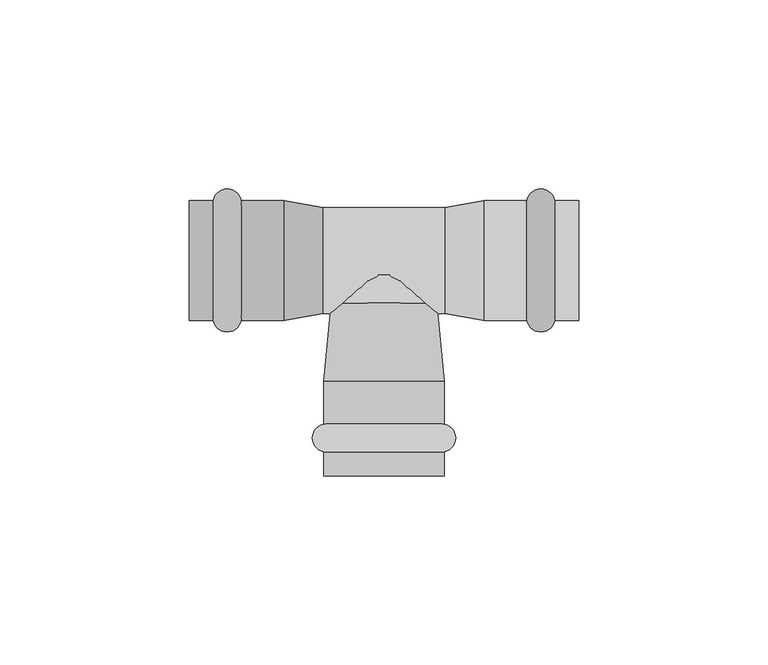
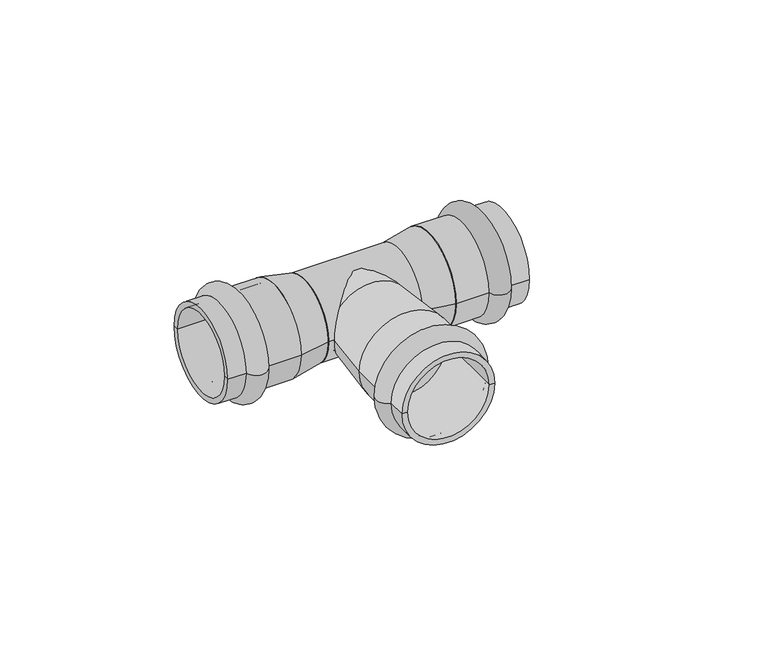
"""IFC4 building model written with IfcOpenShell, lengths in millimetres: pipe fitting geometry, VALTEC_VTi.931.I_Тройник_Ннержавеющая сталь : VTi.931.I."""

import ifcopenshell
import ifcopenshell.guid

model = None  # the IFC model being written
_history = None  # IfcOwnerHistory: only IFC2X3 demands one
_inside = {}  # id of a spatial element -> (the spatial element, [elements in it])
_under = {}  # id of a project, library or spatial element -> (it, [spatial elements below it])
_declared = {}  # id of a project -> (the project, [libraries it declares])
_typed = {}  # id of a type object -> (the type object, [elements of that type])
_made_of = {}  # id of a material, layer set ... -> (it, [elements and type objects made of it])


def new_model(schema):
    """Start an empty IFC model of exactly this schema.

    Asked for "IFC4X3", IfcOpenShell would pick the latest addendum, in which some entities
    have other attributes; the version numbers below select the first issue.
    IFC2X3 requires an IfcOwnerHistory on every rooted entity: one is made here for all.
    """
    global model, _history
    if schema == "IFC4X3":
        model = ifcopenshell.file(schema_version=(4, 3, 0, 0))
    else:
        model = ifcopenshell.file(schema=schema)
    _inside.clear()
    _under.clear()
    _declared.clear()
    _typed.clear()
    _made_of.clear()
    _history = None
    if model.schema == "IFC2X3":
        org = make("IfcOrganization", Name="unknown")
        user = make(
            "IfcPersonAndOrganization",
            ThePerson=make("IfcPerson", FamilyName="unknown"),
            TheOrganization=org,
        )
        app = make(
            "IfcApplication",
            ApplicationDeveloper=org,
            Version="unknown",
            ApplicationFullName="unknown",
            ApplicationIdentifier="unknown",
        )
        _history = make(
            "IfcOwnerHistory",
            OwningUser=user,
            OwningApplication=app,
            ChangeAction="ADDED",
            CreationDate=0,
        )
    return model


def make(cls, **values):
    """One entity of the class cls with the attributes given. An attribute that is None is left unset."""
    return model.create_entity(
        cls, **{name: value for name, value in values.items() if value is not None}
    )


def rooted(cls, **values):
    """An entity with a GlobalId (a new one), such as an element, a storey or a relation."""
    return make(cls, GlobalId=ifcopenshell.guid.new(), OwnerHistory=_history, **values)


def si_unit(unit_type, name, prefix=None):
    """IfcSIUnit, for example si_unit("LENGTHUNIT", "METRE", prefix="MILLI")."""
    return make("IfcSIUnit", UnitType=unit_type, Prefix=prefix, Name=name)


def assignment(units):
    """IfcUnitAssignment: the units of a project."""
    return None if units is None else make("IfcUnitAssignment", Units=units)


def point(xyz):
    """IfcCartesianPoint."""
    return None if xyz is None else make("IfcCartesianPoint", Coordinates=xyz)


def direction(xyz):
    """IfcDirection."""
    return None if xyz is None else make("IfcDirection", DirectionRatios=xyz)


def frame(location, z_axis=None, x_axis=None):
    """IfcAxis2Placement3D, a coordinate frame: its origin and axes. An axis left out is left unset."""
    return make(
        "IfcAxis2Placement3D",
        Location=point(location),
        Axis=direction(z_axis),
        RefDirection=direction(x_axis),
    )


def frame_2d(location, x_axis=None):
    """IfcAxis2Placement2D, a coordinate frame in the plane: its origin and x axis."""
    return make(
        "IfcAxis2Placement2D", Location=point(location), RefDirection=direction(x_axis)
    )


def origin():
    """The frame at (0, 0, 0) with its axes left unset."""
    return frame((0.0, 0.0, 0.0))


def origin_2d():
    """The frame at (0, 0) in the plane with its x axis left unset."""
    return frame_2d((0.0, 0.0))


def place(relative_to, where):
    """IfcLocalPlacement: puts the frame where relative to a parent placement (None: the world)."""
    return make(
        "IfcLocalPlacement", PlacementRelTo=relative_to, RelativePlacement=where
    )


def context(
    kind, dimensions, precision=None, world=None, true_north=None, identifier=None
):
    """IfcGeometricRepresentationContext, for example the 3D "Model" context."""
    return make(
        "IfcGeometricRepresentationContext",
        ContextIdentifier=identifier,
        ContextType=kind,
        CoordinateSpaceDimension=dimensions,
        Precision=precision,
        WorldCoordinateSystem=world,
        TrueNorth=true_north,
    )


def project(units=None, contexts=None):
    """IfcProject with its units and contexts."""
    return rooted(
        "IfcProject",
        Name="project",
        RepresentationContexts=contexts,
        UnitsInContext=assignment(units),
    )


def spatial(cls, under=None, at=None, **own):
    """A site, building, storey or space (cls), placed at a placement, below another one or the project."""
    s = rooted(cls, ObjectPlacement=at, **own)
    if under is not None:
        _under.setdefault(under.id(), (under, []))[1].append(s)
    return s


def polyline(points):
    """IfcPolyline through the points."""
    return make("IfcPolyline", Points=[point(p) for p in points])


def circle_curve(where, radius):
    """IfcCircle in the frame where."""
    return make("IfcCircle", Position=where, Radius=radius)


def ellipse_curve(where, semi_axis1, semi_axis2):
    """IfcEllipse in the frame where."""
    return make(
        "IfcEllipse", Position=where, SemiAxis1=semi_axis1, SemiAxis2=semi_axis2
    )


def trimmed(basis, trim1, trim2, sense, master):
    """IfcTrimmedCurve: the piece of a basis curve between two trims."""
    return make(
        "IfcTrimmedCurve",
        BasisCurve=basis,
        Trim1=trim1,
        Trim2=trim2,
        SenseAgreement=sense,
        MasterRepresentation=master,
    )


def segment(curve, same_sense, transition):
    """IfcCompositeCurveSegment."""
    return make(
        "IfcCompositeCurveSegment",
        Transition=transition,
        SameSense=same_sense,
        ParentCurve=curve,
    )


def composite_curve(segments, self_intersect=None):
    """IfcCompositeCurve: segments joined end to end."""
    return make("IfcCompositeCurve", Segments=segments, SelfIntersect=self_intersect)


def outline(outer, holes=None, kind="AREA"):
    """IfcArbitraryClosedProfileDef: a profile drawn as a closed curve; with holes, ...WithVoids."""
    if holes is None:
        return make("IfcArbitraryClosedProfileDef", ProfileType=kind, OuterCurve=outer)
    return make(
        "IfcArbitraryProfileDefWithVoids",
        ProfileType=kind,
        OuterCurve=outer,
        InnerCurves=holes,
    )


def extrude(swept, where, along, depth):
    """IfcExtrudedAreaSolid: the profile swept, set in the frame where, extruded along a direction by depth."""
    return make(
        "IfcExtrudedAreaSolid",
        SweptArea=swept,
        Position=where,
        ExtrudedDirection=direction(along),
        Depth=depth,
    )


def shape(context_of_items, identifier, shape_type, items):
    """IfcShapeRepresentation: the items that make up one representation, for example the "Body"."""
    return make(
        "IfcShapeRepresentation",
        ContextOfItems=context_of_items,
        RepresentationIdentifier=identifier,
        RepresentationType=shape_type,
        Items=items,
    )


def source(mapping_origin, context_of_items, identifier, shape_type, items):
    """IfcRepresentationMap: a shape defined once, which mapped items show again and again."""
    return make(
        "IfcRepresentationMap",
        MappingOrigin=mapping_origin,
        MappedRepresentation=shape(context_of_items, identifier, shape_type, items),
    )


def transform(
    local_origin,
    x_axis=None,
    y_axis=None,
    z_axis=None,
    scale=None,
    scale2=None,
    scale3=None,
    uniform=True,
):
    """IfcCartesianTransformationOperator3D, or its non-uniform kind. x_axis, y_axis, z_axis: its Axis1, 2, 3."""
    if uniform:
        return make(
            "IfcCartesianTransformationOperator3D",
            Axis1=direction(x_axis),
            Axis2=direction(y_axis),
            LocalOrigin=point(local_origin),
            Scale=scale,
            Axis3=direction(z_axis),
        )
    return make(
        "IfcCartesianTransformationOperator3DnonUniform",
        Axis1=direction(x_axis),
        Axis2=direction(y_axis),
        LocalOrigin=point(local_origin),
        Scale=scale,
        Axis3=direction(z_axis),
        Scale2=scale2,
        Scale3=scale3,
    )


def mapped(mapping_source, mapping_target):
    """IfcMappedItem: shows the shape of a source again, moved by a transform."""
    return make(
        "IfcMappedItem", MappingSource=mapping_source, MappingTarget=mapping_target
    )


def made_of(thing, what):
    """Note that an element or type object is made of a material, layer set ...; save() writes the relation."""
    if what is not None:
        _made_of.setdefault(what.id(), (what, []))[1].append(thing)
    return thing


def element(
    cls,
    number,
    at=None,
    inside=None,
    cuts=None,
    type_object=None,
    material=None,
    context=None,
    identifier="Body",
    shape_type=None,
    held_by="IfcProductDefinitionShape",
    body=None,
    shapes=None,
    **own,
):
    """One element of the class cls, such as IfcWall. Its Tag is "e" and its number.

    at: its placement. inside: the storey or other place that contains it. cuts: it is an
    opening in that element (IfcRelVoidsElement). A single representation is given by context,
    identifier, shape_type and body (its items); several are given by shapes. held_by: the class
    of the entity that holds the representations. save() writes the other relations.
    """
    e = rooted(cls, Tag="e%d" % number, ObjectPlacement=at, **own)
    if body is not None:
        shapes = [shape(context, identifier, shape_type, body)]
    if shapes is not None:
        e.Representation = make(held_by, Representations=shapes)
    if inside is not None:
        _inside.setdefault(inside.id(), (inside, []))[1].append(e)
    if cuts is not None:
        rooted(
            "IfcRelVoidsElement", RelatingBuildingElement=cuts, RelatedOpeningElement=e
        )
    if type_object is not None:
        _typed.setdefault(type_object.id(), (type_object, []))[1].append(e)
    return made_of(e, material)


def aggregate(whole, parts):
    """IfcRelAggregates: a whole, such as a stair, and the parts it consists of."""
    return rooted("IfcRelAggregates", RelatingObject=whole, RelatedObjects=parts)


def save(model, path):
    """Write the relations noted so far, then the file.

    IfcRelAggregates (storeys below a building ...), IfcRelContainedInSpatialStructure (elements
    in a storey), IfcRelDefinesByType, IfcRelAssociatesMaterial and IfcRelDeclares: one each for
    every whole, place, type object, material and project.
    """
    for whole, parts in _under.values():
        aggregate(whole, parts)
    for where, things in _inside.values():
        rooted(
            "IfcRelContainedInSpatialStructure",
            RelatedElements=things,
            RelatingStructure=where,
        )
    for kind, things in _typed.values():
        rooted("IfcRelDefinesByType", RelatedObjects=things, RelatingType=kind)
    for what, things in _made_of.values():
        rooted("IfcRelAssociatesMaterial", RelatedObjects=things, RelatingMaterial=what)
    for by, libraries in _declared.values():
        rooted("IfcRelDeclares", RelatingContext=by, RelatedDefinitions=libraries)
    model.write(path)


def plane_surface(at):
    """IfcPlane: the flat surface through the origin of the frame at, square to its z axis."""
    return make("IfcPlane", Position=at)


def cylinder_surface(at, radius):
    """IfcCylindricalSurface: all points at the distance radius from the z axis of the frame at."""
    return make("IfcCylindricalSurface", Position=at, Radius=radius)


def revolved_surface(curve, axis_point, axis_direction):
    """IfcSurfaceOfRevolution: the curve turned about the line through axis_point along axis_direction."""
    return make(
        "IfcSurfaceOfRevolution",
        SweptCurve=make("IfcArbitraryOpenProfileDef", ProfileType="CURVE", Curve=curve),
        AxisPosition=make("IfcAxis1Placement", Location=point(axis_point), Axis=direction(axis_direction)),
    )


def advanced_brep(points, edges, surfaces, faces):
    """IfcAdvancedBrep: a solid bounded by faces that lie on surfaces and meet in shared edges.

    An edge is (start, end): straight between two places in points (the first is 0);
    or (start, end, curve); or (start, end, curve, False) where it runs against its curve.
    A face is (place in surfaces, loops), or (place, loops, False) where it looks against
    its surface's normal. A loop lists edges by number (the first is 1), with a minus sign
    where the edge is run from its end to its start. The first loop is the outer one.
    """
    corners = [point(p) for p in points]
    vertices = [make("IfcVertexPoint", VertexGeometry=c) for c in corners]
    made = []
    for start, end, *more in edges:
        made.append(
            make(
                "IfcEdgeCurve",
                EdgeStart=vertices[start],
                EdgeEnd=vertices[end],
                EdgeGeometry=more[0] if more else make("IfcPolyline", Points=[corners[start], corners[end]]),
                SameSense=more[1] if len(more) > 1 else True,
            )
        )
    hull = []
    for where, loops, *sense in faces:
        bounds = []
        for j, loop in enumerate(loops):
            ring = [make("IfcOrientedEdge", EdgeElement=made[abs(k) - 1], Orientation=k > 0) for k in loop]
            bounds.append(
                make(
                    "IfcFaceOuterBound" if j == 0 else "IfcFaceBound",
                    Bound=make("IfcEdgeLoop", EdgeList=ring),
                    Orientation=True,
                )
            )
        hull.append(make("IfcAdvancedFace", Bounds=bounds, FaceSurface=surfaces[where], SameSense=sense[0] if sense else True))
    return make("IfcAdvancedBrep", Outer=make("IfcClosedShell", CfsFaces=hull))


def pipe_fitting_51698283(model_context):
    return source(origin(), model_context, "Body", "SolidModel", [
        advanced_brep(
        [(15.9, -50.6242346, 0.0), (-15.9, -50.6242346, 0.0), (-15.9, -43.2757654, 0.0), (15.9, -43.2757654, 0.0), (15.9, -57.0, 0.0), (-15.9, -57.0, 0.0), (14.0, -57.0, 0.0), (-14.0, -57.0, 0.0), (14.0, -32.0, 0.0), (-14.0, -32.0, 0.0), (15.9, -32.0, 0.0), (-15.9, -32.0, 0.0)],
        [
            (0, 1, circle_curve(frame((0.0, -50.6242346, 0.0), z_axis=(0.0, 1.0, 0.0), x_axis=(-1.0, 0.0, 0.0)), 15.9)),
            (1, 2, circle_curve(frame((-15.15, -46.95, 0.0), z_axis=(0.0, 0.0, -1.0), x_axis=(0.0, 1.0, 0.0)), 3.75)),
            (2, 3, circle_curve(frame((0.0, -43.2757654, 0.0), z_axis=(0.0, -1.0, 0.0), x_axis=(-1.0, 0.0, 0.0)), 15.9)),
            (3, 0, circle_curve(frame((15.15, -46.95, 0.0), z_axis=(0.0, 0.0, -1.0), x_axis=(0.0, 1.0, 0.0)), 3.75)),
            (1, 0, circle_curve(frame((0.0, -50.6242346, 0.0), z_axis=(0.0, 1.0, 0.0), x_axis=(-1.0, 0.0, 0.0)), 15.9)),
            (3, 2, circle_curve(frame((0.0, -43.2757654, 0.0), z_axis=(0.0, -1.0, 0.0), x_axis=(-1.0, 0.0, 0.0)), 15.9)),
            (4, 5, circle_curve(frame((0.0, -57.0, 0.0), z_axis=(0.0, 1.0, 0.0), x_axis=(-1.0, 0.0, 0.0)), 15.9)),
            (5, 1),
            (0, 4),
            (5, 4, circle_curve(frame((0.0, -57.0, 0.0), z_axis=(0.0, 1.0, 0.0), x_axis=(-1.0, 0.0, 0.0)), 15.9)),
            (6, 7, circle_curve(frame((0.0, -57.0, 0.0), z_axis=(0.0, 1.0, 0.0), x_axis=(-1.0, 0.0, 0.0)), 14.0)),
            (7, 5),
            (4, 6),
            (7, 6, circle_curve(frame((0.0, -57.0, 0.0), z_axis=(0.0, 1.0, 0.0), x_axis=(-1.0, 0.0, 0.0)), 14.0)),
            (8, 9, circle_curve(frame((0.0, -32.0, 0.0), z_axis=(0.0, 1.0, 0.0), x_axis=(-1.0, 0.0, 0.0)), 14.0)),
            (9, 7),
            (6, 8),
            (9, 8, circle_curve(frame((0.0, -32.0, 0.0), z_axis=(0.0, 1.0, 0.0), x_axis=(-1.0, 0.0, 0.0)), 14.0)),
            (10, 11, circle_curve(frame((0.0, -32.0, 0.0), z_axis=(0.0, 1.0, 0.0), x_axis=(-1.0, 0.0, 0.0)), 15.9)),
            (11, 9),
            (8, 10),
            (11, 10, circle_curve(frame((0.0, -32.0, 0.0), z_axis=(0.0, 1.0, 0.0), x_axis=(-1.0, 0.0, 0.0)), 15.9)),
            (2, 11),
            (10, 3),
        ],
        [
            revolved_surface(trimmed(ellipse_curve(frame((-15.15, -46.95, 0.0), z_axis=(0.0, 0.0, 1.0), x_axis=(0.0, 1.0, 0.0)), 3.75, 3.75), [point((-15.9, -43.2757654, 0.0))], [point((-15.9, -50.6242346, 0.0))], True, "CARTESIAN"), (0.0, -60.5364426, 0.0), (0.0, -1.0, 0.0)),
            cylinder_surface(frame((0.0, -60.5364426, 0.0), z_axis=(0.0, -1.0, 0.0), x_axis=(-1.0, 0.0, 0.0)), 15.9),
            plane_surface(frame((0.0, -57.0, 0.0), z_axis=(0.0, -1.0, 0.0), x_axis=(-1.0, 0.0, 0.0))),
            revolved_surface(polyline([(-14.0, -57.0, 0.0), (-14.0, -32.0, 0.0)]), (0.0, -60.5364426, 0.0), (0.0, -1.0, 0.0)),
            plane_surface(frame((0.0, -32.0, 0.0), z_axis=(0.0, 1.0, 0.0), x_axis=(-1.0, 0.0, 0.0))),
        ],
        [
            (0, [[1, 2, 3, 4]]),
            (0, [[5, -4, 6, -2]]),
            (1, [[7, 8, -1, 9]]),
            (1, [[10, -9, -5, -8]]),
            (2, [[11, 12, -7, 13]]),
            (2, [[14, -13, -10, -12]]),
            (3, [[15, 16, -11, 17]]),
            (3, [[18, -17, -14, -16]]),
            (4, [[19, 20, -15, 21]]),
            (4, [[22, -21, -18, -20]]),
            (1, [[-3, 23, -19, 24]]),
            (1, [[-6, -24, -22, -23]]),
        ],
    ),
        advanced_brep(
        [(45.1242346, 15.9, 0.0), (45.1242346, -15.9, 0.0), (37.7757654, -15.9, 0.0), (37.7757654, 15.9, 0.0), (51.5, 15.9, 0.0), (51.5, -15.9, 0.0), (51.5, 14.0, 0.0), (51.5, -14.0, 0.0), (26.5, 14.0, 0.0), (26.5, -14.0, 0.0), (26.5, 15.9, 0.0), (26.5, -15.9, 0.0)],
        [
            (0, 1, circle_curve(frame((45.1242346, 0.0, 0.0), z_axis=(-1.0, 0.0, 0.0), x_axis=(0.0, -1.0, 0.0)), 15.9)),
            (1, 2, circle_curve(frame((41.45, -15.15, 0.0), z_axis=(0.0, 0.0, -1.0), x_axis=(-1.0, 0.0, 0.0)), 3.75)),
            (2, 3, circle_curve(frame((37.7757654, 0.0, 0.0), z_axis=(1.0, 0.0, 0.0), x_axis=(0.0, -1.0, 0.0)), 15.9)),
            (3, 0, circle_curve(frame((41.45, 15.15, 0.0), z_axis=(0.0, 0.0, -1.0), x_axis=(-1.0, 0.0, 0.0)), 3.75)),
            (1, 0, circle_curve(frame((45.1242346, 0.0, 0.0), z_axis=(-1.0, 0.0, 0.0), x_axis=(0.0, -1.0, 0.0)), 15.9)),
            (3, 2, circle_curve(frame((37.7757654, 0.0, 0.0), z_axis=(1.0, 0.0, 0.0), x_axis=(0.0, -1.0, 0.0)), 15.9)),
            (4, 5, circle_curve(frame((51.5, 0.0, 0.0), z_axis=(-1.0, 0.0, 0.0), x_axis=(0.0, -1.0, 0.0)), 15.9)),
            (5, 1),
            (0, 4),
            (5, 4, circle_curve(frame((51.5, 0.0, 0.0), z_axis=(-1.0, 0.0, 0.0), x_axis=(0.0, -1.0, 0.0)), 15.9)),
            (6, 7, circle_curve(frame((51.5, 0.0, 0.0), z_axis=(-1.0, 0.0, 0.0), x_axis=(0.0, -1.0, 0.0)), 14.0)),
            (7, 5),
            (4, 6),
            (7, 6, circle_curve(frame((51.5, 0.0, 0.0), z_axis=(-1.0, 0.0, 0.0), x_axis=(0.0, -1.0, 0.0)), 14.0)),
            (8, 9, circle_curve(frame((26.5, 0.0, 0.0), z_axis=(-1.0, 0.0, 0.0), x_axis=(0.0, -1.0, 0.0)), 14.0)),
            (9, 7),
            (6, 8),
            (9, 8, circle_curve(frame((26.5, 0.0, 0.0), z_axis=(-1.0, 0.0, 0.0), x_axis=(0.0, -1.0, 0.0)), 14.0)),
            (10, 11, circle_curve(frame((26.5, 0.0, 0.0), z_axis=(-1.0, 0.0, 0.0), x_axis=(0.0, -1.0, 0.0)), 15.9)),
            (11, 9),
            (8, 10),
            (11, 10, circle_curve(frame((26.5, 0.0, 0.0), z_axis=(-1.0, 0.0, 0.0), x_axis=(0.0, -1.0, 0.0)), 15.9)),
            (2, 11),
            (10, 3),
        ],
        [
            revolved_surface(trimmed(ellipse_curve(frame((41.45, -15.15, 0.0), z_axis=(0.0, 0.0, 1.0), x_axis=(-1.0, 0.0, 0.0)), 3.75, 3.75), [point((37.7757654, -15.9, 0.0))], [point((45.1242346, -15.9, 0.0))], True, "CARTESIAN"), (55.0364426, 0.0, 0.0), (1.0, 0.0, 0.0)),
            cylinder_surface(frame((55.0364426, 0.0, 0.0), z_axis=(1.0, 0.0, 0.0), x_axis=(0.0, -1.0, 0.0)), 15.9),
            plane_surface(frame((51.5, 0.0, 0.0), z_axis=(1.0, 0.0, 0.0), x_axis=(0.0, -1.0, 0.0))),
            revolved_surface(polyline([(51.5, -14.0, 0.0), (26.5, -14.0, 0.0)]), (55.0364426, 0.0, 0.0), (1.0, 0.0, 0.0)),
            plane_surface(frame((26.5, 0.0, 0.0), z_axis=(-1.0, 0.0, 0.0), x_axis=(0.0, -1.0, 0.0))),
        ],
        [
            (0, [[1, 2, 3, 4]]),
            (0, [[5, -4, 6, -2]]),
            (1, [[7, 8, -1, 9]]),
            (1, [[10, -9, -5, -8]]),
            (2, [[11, 12, -7, 13]]),
            (2, [[14, -13, -10, -12]]),
            (3, [[15, 16, -11, 17]]),
            (3, [[18, -17, -14, -16]]),
            (4, [[19, 20, -15, 21]]),
            (4, [[22, -21, -18, -20]]),
            (1, [[-3, 23, -19, 24]]),
            (1, [[-6, -24, -22, -23]]),
        ],
    ),
        advanced_brep(
        [(-45.1242346, -15.9, 0.0), (-45.1242346, 15.9, 0.0), (-37.7757654, 15.9, 0.0), (-37.7757654, -15.9, 0.0), (-51.5, -15.9, 0.0), (-51.5, 15.9, 0.0), (-51.5, -14.0, 0.0), (-51.5, 14.0, 0.0), (-26.5, -14.0, 0.0), (-26.5, 14.0, 0.0), (-26.5, -15.9, 0.0), (-26.5, 15.9, 0.0)],
        [
            (0, 1, circle_curve(frame((-45.1242346, 0.0, 0.0), z_axis=(1.0, 0.0, 0.0), x_axis=(0.0, 1.0, 0.0)), 15.9)),
            (1, 2, circle_curve(frame((-41.45, 15.15, 0.0), z_axis=(0.0, 0.0, -1.0), x_axis=(1.0, 0.0, 0.0)), 3.75)),
            (2, 3, circle_curve(frame((-37.7757654, 0.0, 0.0), z_axis=(-1.0, 0.0, 0.0), x_axis=(0.0, 1.0, 0.0)), 15.9)),
            (3, 0, circle_curve(frame((-41.45, -15.15, 0.0), z_axis=(0.0, 0.0, -1.0), x_axis=(1.0, 0.0, 0.0)), 3.75)),
            (1, 0, circle_curve(frame((-45.1242346, 0.0, 0.0), z_axis=(1.0, 0.0, 0.0), x_axis=(0.0, 1.0, 0.0)), 15.9)),
            (3, 2, circle_curve(frame((-37.7757654, 0.0, 0.0), z_axis=(-1.0, 0.0, 0.0), x_axis=(0.0, 1.0, 0.0)), 15.9)),
            (4, 5, circle_curve(frame((-51.5, 0.0, 0.0), z_axis=(1.0, 0.0, 0.0), x_axis=(0.0, 1.0, 0.0)), 15.9)),
            (5, 1),
            (0, 4),
            (5, 4, circle_curve(frame((-51.5, 0.0, 0.0), z_axis=(1.0, 0.0, 0.0), x_axis=(0.0, 1.0, 0.0)), 15.9)),
            (6, 7, circle_curve(frame((-51.5, 0.0, 0.0), z_axis=(1.0, 0.0, 0.0), x_axis=(0.0, 1.0, 0.0)), 14.0)),
            (7, 5),
            (4, 6),
            (7, 6, circle_curve(frame((-51.5, 0.0, 0.0), z_axis=(1.0, 0.0, 0.0), x_axis=(0.0, 1.0, 0.0)), 14.0)),
            (8, 9, circle_curve(frame((-26.5, 0.0, 0.0), z_axis=(1.0, 0.0, 0.0), x_axis=(0.0, 1.0, 0.0)), 14.0)),
            (9, 7),
            (6, 8),
            (9, 8, circle_curve(frame((-26.5, 0.0, 0.0), z_axis=(1.0, 0.0, 0.0), x_axis=(0.0, 1.0, 0.0)), 14.0)),
            (10, 11, circle_curve(frame((-26.5, 0.0, 0.0), z_axis=(1.0, 0.0, 0.0), x_axis=(0.0, 1.0, 0.0)), 15.9)),
            (11, 9),
            (8, 10),
            (11, 10, circle_curve(frame((-26.5, 0.0, 0.0), z_axis=(1.0, 0.0, 0.0), x_axis=(0.0, 1.0, 0.0)), 15.9)),
            (2, 11),
            (10, 3),
        ],
        [
            revolved_surface(trimmed(ellipse_curve(frame((-41.45, 15.15, 0.0), z_axis=(0.0, 0.0, 1.0), x_axis=(1.0, 0.0, 0.0)), 3.75, 3.75), [point((-37.7757654, 15.9, 0.0))], [point((-45.1242346, 15.9, 0.0))], True, "CARTESIAN"), (-55.0364426, 0.0, 0.0), (-1.0, 0.0, 0.0)),
            cylinder_surface(frame((-55.0364426, 0.0, 0.0), z_axis=(-1.0, 0.0, 0.0), x_axis=(0.0, 1.0, 0.0)), 15.9),
            plane_surface(frame((-51.5, 0.0, 0.0), z_axis=(-1.0, 0.0, 0.0), x_axis=(0.0, 1.0, 0.0))),
            revolved_surface(polyline([(-51.5, 14.0, 0.0), (-26.5, 14.0, 0.0)]), (-55.0364426, 0.0, 0.0), (-1.0, 0.0, 0.0)),
            plane_surface(frame((-26.5, 0.0, 0.0), z_axis=(1.0, 0.0, 0.0), x_axis=(0.0, 1.0, 0.0))),
        ],
        [
            (0, [[1, 2, 3, 4]]),
            (0, [[5, -4, 6, -2]]),
            (1, [[7, 8, -1, 9]]),
            (1, [[10, -9, -5, -8]]),
            (2, [[11, 12, -7, 13]]),
            (2, [[14, -13, -10, -12]]),
            (3, [[15, 16, -11, 17]]),
            (3, [[18, -17, -14, -16]]),
            (4, [[19, 20, -15, 21]]),
            (4, [[22, -21, -18, -20]]),
            (1, [[-3, 23, -19, 24]]),
            (1, [[-6, -24, -22, -23]]),
        ],
    ),
        extrude(outline(composite_curve([segment(trimmed(circle_curve(origin_2d(), 14.0), [point((-14.0, 0.0))], [point((14.0, 0.0))], False, "CARTESIAN"), True, "CONTINUOUS"), segment(trimmed(circle_curve(origin_2d(), 14.0), [point((14.0, 0.0))], [point((-14.0, 0.0))], False, "CARTESIAN"), True, "CONTINUOUS")], self_intersect=False)), frame((-16.0, 0.0, 0.0), z_axis=(1.0, 0.0, 0.0), x_axis=(0.0, 1.0, 0.0)), (0.0, 0.0, 1.0), 32.0),
        advanced_brep(
        [(-15.9, -32.0, 0.0), (15.9, -32.0, 0.0), (-14.0, -11.3209826, 0.0), (14.0, -11.3209826, 0.0)],
        [
            (0, 1, circle_curve(frame((0.0, -32.0, 0.0), z_axis=(0.0, -1.0, 0.0), x_axis=(-1.0, 0.0, 0.0)), 15.9)),
            (1, 0, circle_curve(frame((0.0, -32.0, 0.0), z_axis=(0.0, -1.0, 0.0), x_axis=(1.0, 0.0, 0.0)), 15.9)),
            (2, 3, circle_curve(frame((0.0, -11.3209826, 0.0), z_axis=(0.0, 1.0, 0.0), x_axis=(1.0, 0.0, 0.0)), 14.0)),
            (3, 2, circle_curve(frame((0.0, -11.3209826, 0.0), z_axis=(0.0, 1.0, 0.0), x_axis=(-1.0, 0.0, 0.0)), 14.0)),
            (3, 1),
            (0, 2),
        ],
        [
            plane_surface(frame((0.0, -32.0, 0.0), z_axis=(0.0, -1.0, 0.0), x_axis=(0.0, 0.0, 1.0))),
            plane_surface(frame((0.0, -11.3209826, 0.0), z_axis=(0.0, 1.0, 0.0), x_axis=(0.0, 0.0, 1.0))),
            revolved_surface(polyline([(14.000000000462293, -11.320982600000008, 0.0), (15.9, -32.0, 0.0)]), (0.0, 141.0507246, 0.0), (0.0, -1.0, 0.0)),
            revolved_surface(polyline([(-14.000000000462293, -11.320982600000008, 0.0), (-15.9, -32.0, 0.0)]), (0.0, 141.0507246, 0.0), (0.0, -1.0, 0.0)),
        ],
        [
            (0, [[1, 2]]),
            (1, [[3, 4]]),
            (2, [[-4, 5, -1, 6]]),
            (3, [[-3, -6, -2, -5]]),
        ],
    ),
        extrude(outline(composite_curve([segment(trimmed(circle_curve(origin_2d(), 14.0), [point((0.0, -14.0))], [point((0.0, 14.0))], False, "CARTESIAN"), True, "CONTINUOUS"), segment(trimmed(circle_curve(origin_2d(), 14.0), [point((0.0, 14.0))], [point((0.0, -14.0))], False, "CARTESIAN"), True, "CONTINUOUS")], self_intersect=False)), frame((0.0, -11.3209826, 0.0), z_axis=(0.0, 1.0, 0.0), x_axis=(0.0, 0.0, 1.0)), (0.0, 0.0, 1.0), 11.3209826),
        advanced_brep(
        [(26.5, -15.9, 0.0), (26.5, 15.9, 0.0), (16.0, -14.0, 0.0), (16.0, 14.0, 0.0)],
        [
            (0, 1, circle_curve(frame((26.5, 0.0, 0.0), z_axis=(1.0, 0.0, 0.0), x_axis=(0.0, -1.0, 0.0)), 15.9)),
            (1, 0, circle_curve(frame((26.5, 0.0, 0.0), z_axis=(1.0, 0.0, 0.0), x_axis=(0.0, 1.0, 0.0)), 15.9)),
            (2, 3, circle_curve(frame((16.0, 0.0, 0.0), z_axis=(-1.0, 0.0, 0.0), x_axis=(0.0, 1.0, 0.0)), 14.0)),
            (3, 2, circle_curve(frame((16.0, 0.0, 0.0), z_axis=(-1.0, 0.0, 0.0), x_axis=(0.0, -1.0, 0.0)), 14.0)),
            (3, 1),
            (0, 2),
        ],
        [
            plane_surface(frame((26.5, 0.0, 0.0), z_axis=(1.0, 0.0, 0.0), x_axis=(0.0, 0.0, 1.0))),
            plane_surface(frame((16.0, 0.0, 0.0), z_axis=(-1.0, 0.0, 0.0), x_axis=(0.0, 0.0, 1.0))),
            revolved_surface(polyline([(16.000000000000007, 14.00000000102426, 0.0), (26.500000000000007, 15.9, 0.0)]), (-61.3684211, 0.0, 0.0), (1.0, 0.0, 0.0)),
            revolved_surface(polyline([(16.000000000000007, -14.00000000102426, 0.0), (26.500000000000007, -15.9, 0.0)]), (-61.3684211, 0.0, 0.0), (1.0, 0.0, 0.0)),
        ],
        [
            (0, [[1, 2]]),
            (1, [[3, 4]]),
            (2, [[-4, 5, -1, 6]]),
            (3, [[-3, -6, -2, -5]]),
        ],
    ),
        advanced_brep(
        [(-26.5, -15.9, 0.0), (-26.5, 15.9, 0.0), (-16.0, -14.0, 0.0), (-16.0, 14.0, 0.0)],
        [
            (0, 1, circle_curve(frame((-26.5, 0.0, 0.0), z_axis=(-1.0, 0.0, 0.0), x_axis=(0.0, -1.0, 0.0)), 15.9)),
            (1, 0, circle_curve(frame((-26.5, 0.0, 0.0), z_axis=(-1.0, 0.0, 0.0), x_axis=(0.0, 1.0, 0.0)), 15.9)),
            (2, 3, circle_curve(frame((-16.0, 0.0, 0.0), z_axis=(1.0, 0.0, 0.0), x_axis=(0.0, 1.0, 0.0)), 14.0)),
            (3, 2, circle_curve(frame((-16.0, 0.0, 0.0), z_axis=(1.0, 0.0, 0.0), x_axis=(0.0, -1.0, 0.0)), 14.0)),
            (2, 0),
            (1, 3),
        ],
        [
            plane_surface(frame((-26.5, 0.0, 0.0), z_axis=(-1.0, 0.0, 0.0), x_axis=(0.0, 0.0, -1.0))),
            plane_surface(frame((-16.0, 0.0, 0.0), z_axis=(1.0, 0.0, 0.0), x_axis=(0.0, 0.0, -1.0))),
            revolved_surface(polyline([(-16.000000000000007, -14.00000000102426, 0.0), (-26.500000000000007, -15.9, 0.0)]), (61.3684211, 0.0, 0.0), (-1.0, 0.0, 0.0)),
            revolved_surface(polyline([(-16.000000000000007, 14.00000000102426, 0.0), (-26.500000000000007, 15.9, 0.0)]), (61.3684211, 0.0, 0.0), (-1.0, 0.0, 0.0)),
        ],
        [
            (0, [[1, 2]]),
            (1, [[3, 4]]),
            (2, [[-3, 5, -2, 6]]),
            (3, [[-4, -6, -1, -5]]),
        ],
    ),
    ])


if __name__ == "__main__":
    model = new_model("IFC4")
    model_context = context("Model", 3, world=origin())
    ifc_project = project(units=[si_unit("LENGTHUNIT", "METRE", prefix="MILLI")], contexts=[model_context])
    site = spatial("IfcSite", under=ifc_project)
    building = spatial("IfcBuilding", under=site)
    placement = place(None, origin())
    pipe_fitting_shape = pipe_fitting_51698283(model_context)
    element("IfcPipeFitting", 1, ObjectType="VALTEC_VTi.931.I_Тройник_Ннержавеющая сталь : VTi.931.I", at=placement, inside=building, context=model_context, shape_type="MappedRepresentation", body=[
        mapped(pipe_fitting_shape, transform((0.0, 0.0, 0.0), x_axis=(1.0, 0.0, 0.0), y_axis=(0.0, 1.0, 0.0), z_axis=(0.0, 0.0, 1.0))),
    ])
    save(model, "model.ifc")
